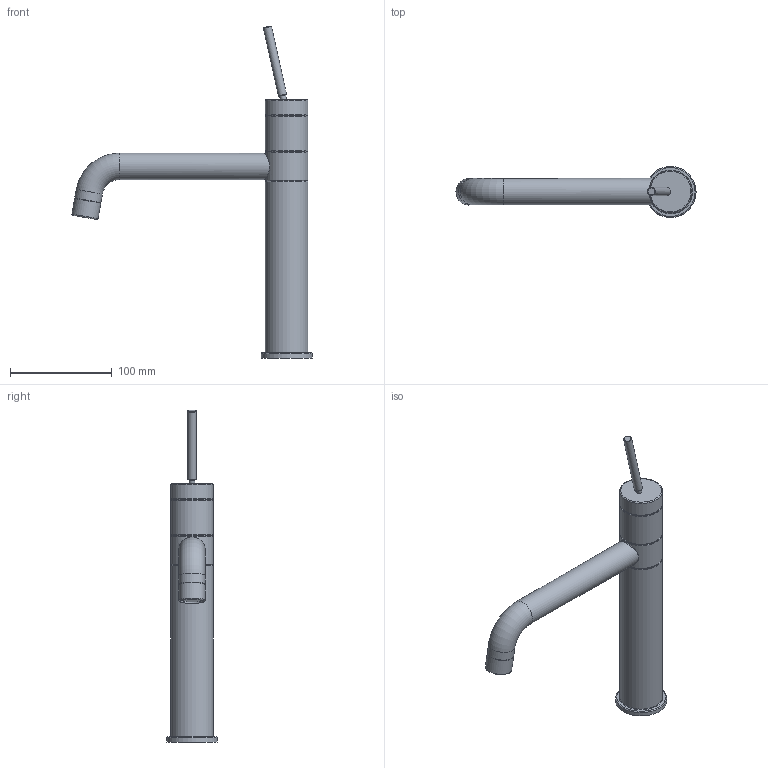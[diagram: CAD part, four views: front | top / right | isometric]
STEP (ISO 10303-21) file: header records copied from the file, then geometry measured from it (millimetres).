
FILE_DESCRIPTION(('STEP AP203'), '1');
FILE_NAME('78CR579JOKM', '', ('UNSPECIFIED'), ('UNSPECIFIED'), 'ASCON STEP Converter 1.6', 'ASCON Math Kernel', '');
FILE_SCHEMA(('CONFIG_CONTROL_DESIGN'));
Length unit declared in the file: millimetre
Bounding box: 235.64 x 50 x 325.79 mm (x, y, z)
Volume: 469149.3 mm3; surface area: 57357.7 mm2
Topology: 1 solids, 1 shells, 44 faces, 75 edges, 45 vertices
Faces by surface type: plane 15, cylinder 15, torus 13, bspline 1
Full cylindrical faces by diameter (mm): 5.858 x1, 8.058 x1, 22 x1, 24 x1, 26 x3, 40 x3, 42 x4, 50 x1
Entity records: 1751 total; most frequent: CARTESIAN_POINT 617, DIRECTION 170, ORIENTED_EDGE 90, EDGE_LOOP 86, AXIS2_PLACEMENT_3D 85, FACE_OUTER_BOUND 55, COLOUR_RGB 45, FILL_AREA_STYLE_COLOUR 45
